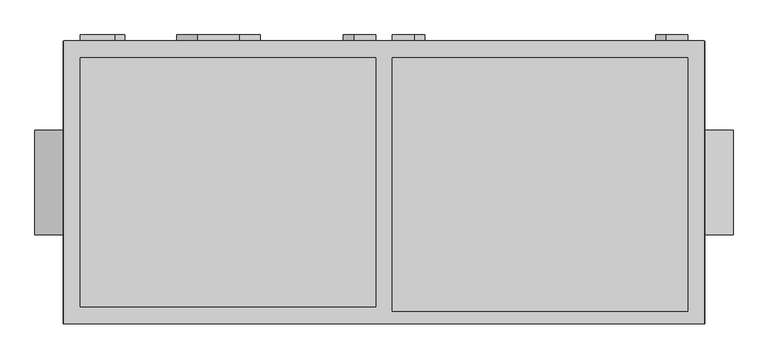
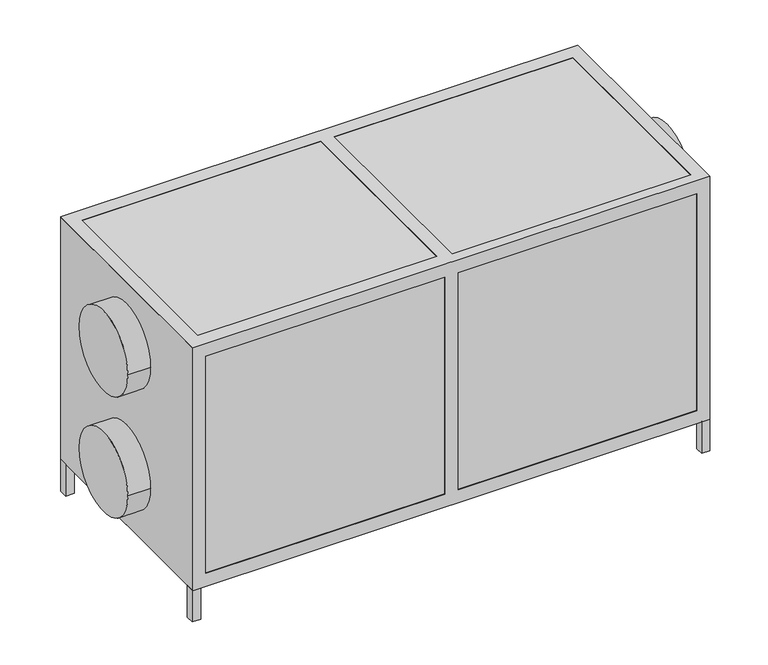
"""IFC4 building model written with IfcOpenShell, lengths in millimetres: proxy geometry, AVS 400...1600-S-RC(RG)-L : AVS 1100-S-RC-L."""

from ifc_helpers import new_model, si_unit, point, frame, frame_2d, origin, origin_with_axes, place, context, project, spatial, polyline, circle_curve, trimmed, segment, composite_curve, outline, extrude, faceted_brep, source, transform, mapped, element, save


def mechanical_equipment_3ae6ca7d(model_context):
    return source(origin(), model_context, "Body", "SolidModel", [
        extrude(outline(polyline([(743.0, 338.0), (768.0, 338.0), (768.0, 313.0), (743.0, 313.0), (743.0, 338.0)])), origin_with_axes(), (0.0, 0.0, 1.0), 100.0),
        extrude(outline(polyline([(743.0, -338.0), (743.0, -313.0), (768.0, -313.0), (768.0, -338.0), (743.0, -338.0)])), origin_with_axes(), (0.0, 0.0, 1.0), 100.0),
        extrude(outline(polyline([(-768.0, 313.0), (-768.0, 338.0), (-743.0, 338.0), (-743.0, 313.0), (-768.0, 313.0)])), origin_with_axes(), (0.0, 0.0, 1.0), 100.0),
        extrude(outline(polyline([(-768.0, -313.0), (-743.0, -313.0), (-743.0, -338.0), (-768.0, -338.0), (-768.0, -313.0)])), origin_with_axes(), (0.0, 0.0, 1.0), 100.0),
        faceted_brep([(767.0, 339.0, 861.0), (-767.0, 339.0, 861.0), (-767.0, -339.0, 861.0), (767.0, -339.0, 861.0), (-728.0, 298.0, 861.0), (-20.0, 298.0, 861.0), (-20.0, -298.0, 861.0), (-728.0, -298.0, 861.0), (728.0, 298.0, 861.0), (728.0, -309.0, 861.0), (20.0, -309.0, 861.0), (20.0, 298.0, 861.0), (767.0, 339.0, 99.0), (767.0, -339.0, 99.0), (-767.0, -339.0, 99.0), (-767.0, 339.0, 99.0), (-20.0, 298.0, 99.0), (-728.0, 298.0, 99.0), (-728.0, -298.0, 99.0), (-20.0, -298.0, 99.0), (728.0, -309.0, 99.0), (728.0, 298.0, 99.0), (20.0, 298.0, 99.0), (20.0, -309.0, 99.0), (-20.0, 339.0, 820.0), (-728.0, 339.0, 820.0), (-728.0, 339.0, 140.0), (-20.0, 339.0, 140.0), (728.0, 339.0, 140.0), (728.0, 339.0, 820.0), (20.0, 339.0, 820.0), (20.0, 339.0, 140.0), (-767.0, -298.0, 820.0), (-767.0, -298.0, 140.0), (-767.0, 298.0, 140.0), (-767.0, 298.0, 820.0), (-728.0, -339.0, 820.0), (-20.0, -339.0, 820.0), (-20.0, -339.0, 140.0), (-728.0, -339.0, 140.0), (728.0, -339.0, 820.0), (728.0, -339.0, 140.0), (20.0, -339.0, 140.0), (20.0, -339.0, 820.0), (767.0, -298.0, 140.0), (767.0, -298.0, 820.0), (767.0, 298.0, 820.0), (767.0, 298.0, 140.0), (-728.0, 298.0, 820.0), (-20.0, 298.0, 820.0), (-20.0, 298.0, 140.0), (-728.0, 298.0, 140.0), (-20.0, -298.0, 820.0), (-728.0, -298.0, 820.0), (-728.0, -298.0, 140.0), (-20.0, -298.0, 140.0), (728.0, 298.0, 820.0), (728.0, -298.0, 820.0), (728.0, -298.0, 140.0), (728.0, 298.0, 140.0), (728.0, -309.0, 140.0), (728.0, -309.0, 820.0), (20.0, 298.0, 820.0), (20.0, -298.0, 820.0), (20.0, -298.0, 140.0), (20.0, 298.0, 140.0), (20.0, -309.0, 820.0), (20.0, -309.0, 140.0)], [[[0, 1, 2, 3], [4, 5, 6, 7], [8, 9, 10, 11]], [[12, 13, 14, 15], [16, 17, 18, 19], [20, 21, 22, 23]], [[1, 0, 12, 15], [24, 25, 26, 27], [28, 29, 30, 31]], [[2, 1, 15, 14], [32, 33, 34, 35]], [[3, 2, 14, 13], [36, 37, 38, 39], [40, 41, 42, 43]], [[0, 3, 13, 12], [44, 45, 46, 47]], [[5, 4, 48, 49]], [[17, 16, 50, 51]], [[7, 6, 52, 53]], [[19, 18, 54, 55]], [[9, 8, 56, 57, 58, 59, 21, 20, 60, 41, 40, 61]], [[56, 29, 28, 59]], [[35, 48, 53, 32]], [[56, 46, 45, 57]], [[49, 62, 63, 52]], [[51, 34, 33, 54]], [[47, 59, 58, 44]], [[55, 64, 65, 50]], [[36, 53, 52, 37]], [[24, 49, 48, 25]], [[54, 39, 38, 55]], [[50, 27, 26, 51]], [[32, 53, 54, 33]], [[57, 45, 44, 58]], [[52, 63, 64, 55]], [[48, 35, 34, 51]], [[62, 49, 50, 65]], [[59, 47, 46, 56]], [[4, 7, 53, 48]], [[18, 17, 51, 54]], [[53, 36, 39, 54]], [[25, 48, 51, 26]], [[6, 5, 49, 52]], [[16, 19, 55, 50]], [[37, 52, 55, 38]], [[49, 24, 27, 50]], [[8, 11, 62, 56]], [[22, 21, 59, 65]], [[11, 10, 66, 43, 42, 67, 23, 22, 65, 64, 63, 62]], [[30, 62, 65, 31]], [[10, 9, 61, 66]], [[20, 23, 67, 60]], [[61, 40, 43, 66]], [[29, 56, 62, 30]], [[41, 60, 67, 42]], [[59, 28, 31, 65]]]),
        extrude(outline(polyline([(-768.0, 338.0), (768.0, 338.0), (768.0, -338.0), (-768.0, -338.0), (-768.0, 338.0)])), frame((0.0, 0.0, 100.0), z_axis=(0.0, 0.0, 1.0), x_axis=(1.0, 0.0, 0.0)), (0.0, 0.0, 1.0), 760.0),
        extrude(outline(composite_curve([segment(polyline([(695.0, -645.2895396), (695.0, -728.0), (645.0, -728.0), (645.0, -645.2895396)]), True, "CONTINUOUS"), segment(trimmed(circle_curve(frame_2d((670.0, -645.2895396)), 25.0), [point((645.0, -645.2895396))], [point((695.0, -645.2895396))], False, "CARTESIAN"), True, "CONTINUOUS")], self_intersect=False)), frame((0.0, 338.0, 0.0), z_axis=(0.0, 1.0, 0.0), x_axis=(0.0, 0.0, 1.0)), (0.0, 0.0, 1.0), 15.0),
        extrude(outline(composite_curve([segment(polyline([(315.0, -645.2895396), (315.0, -728.0), (265.0, -728.0), (265.0, -645.2895396)]), True, "CONTINUOUS"), segment(trimmed(circle_curve(frame_2d((290.0, -645.2895396)), 25.0), [point((265.0, -645.2895396))], [point((315.0, -645.2895396))], False, "CARTESIAN"), True, "CONTINUOUS")], self_intersect=False)), frame((0.0, 338.0, 0.0), z_axis=(0.0, 1.0, 0.0), x_axis=(0.0, 0.0, 1.0)), (0.0, 0.0, 1.0), 15.0),
        extrude(outline(composite_curve([segment(trimmed(circle_curve(frame_2d((583.0, -72.7104604)), 25.0), [point((608.0, -72.7104604))], [point((558.0, -72.7104604))], False, "CARTESIAN"), True, "CONTINUOUS"), segment(polyline([(558.0, -72.7104604), (558.0, -20.0), (608.0, -20.0), (608.0, -72.7104604)]), True, "CONTINUOUS")], self_intersect=False)), frame((0.0, 338.0, 0.0), z_axis=(0.0, 1.0, 0.0), x_axis=(0.0, 0.0, 1.0)), (0.0, 0.0, 1.0), 15.0),
        extrude(outline(composite_curve([segment(polyline([(335.0, -72.7104604), (335.0, -20.0), (385.0, -20.0), (385.0, -72.7104604)]), True, "CONTINUOUS"), segment(trimmed(circle_curve(frame_2d((360.0, -72.7104604)), 25.0), [point((385.0, -72.7104604))], [point((335.0, -72.7104604))], False, "CARTESIAN"), True, "CONTINUOUS")], self_intersect=False)), frame((0.0, 338.0, 0.0), z_axis=(0.0, 1.0, 0.0), x_axis=(0.0, 0.0, 1.0)), (0.0, 0.0, 1.0), 15.0),
        extrude(outline(composite_curve([segment(trimmed(circle_curve(frame_2d((778.0, 675.2895396)), 25.0), [point((803.0, 675.2895396))], [point((753.0, 675.2895396))], False, "CARTESIAN"), True, "CONTINUOUS"), segment(polyline([(753.0, 675.2895396), (753.0, 728.0), (803.0, 728.0), (803.0, 675.2895396)]), True, "CONTINUOUS")], self_intersect=False)), frame((0.0, 338.0, 0.0), z_axis=(0.0, 1.0, 0.0), x_axis=(0.0, 0.0, 1.0)), (0.0, 0.0, 1.0), 15.0),
        extrude(outline(composite_curve([segment(polyline([(157.0, 675.2895396), (157.0, 728.0), (207.0, 728.0), (207.0, 675.2895396)]), True, "CONTINUOUS"), segment(trimmed(circle_curve(frame_2d((182.0, 675.2895396)), 25.0), [point((207.0, 675.2895396))], [point((157.0, 675.2895396))], False, "CARTESIAN"), True, "CONTINUOUS")], self_intersect=False)), frame((0.0, 338.0, 0.0), z_axis=(0.0, 1.0, 0.0), x_axis=(0.0, 0.0, 1.0)), (0.0, 0.0, 1.0), 15.0),
        extrude(outline(composite_curve([segment(polyline([(745.0, 72.7104604), (745.0, 20.0), (695.0, 20.0), (695.0, 72.7104604)]), True, "CONTINUOUS"), segment(trimmed(circle_curve(frame_2d((720.0, 72.7104604)), 25.0), [point((695.0, 72.7104604))], [point((745.0, 72.7104604))], False, "CARTESIAN"), True, "CONTINUOUS")], self_intersect=False)), frame((0.0, 338.0, 0.0), z_axis=(0.0, 1.0, 0.0), x_axis=(0.0, 0.0, 1.0)), (0.0, 0.0, 1.0), 15.0),
        extrude(outline(composite_curve([segment(trimmed(circle_curve(frame_2d((240.0, 72.7104604)), 25.0), [point((215.0, 72.7104604))], [point((265.0, 72.7104604))], False, "CARTESIAN"), True, "CONTINUOUS"), segment(polyline([(265.0, 72.7104604), (265.0, 20.0), (215.0, 20.0), (215.0, 72.7104604)]), True, "CONTINUOUS")], self_intersect=False)), frame((0.0, 338.0, 0.0), z_axis=(0.0, 1.0, 0.0), x_axis=(0.0, 0.0, 1.0)), (0.0, 0.0, 1.0), 15.0),
        extrude(outline(composite_curve([segment(polyline([(793.9531077, -346.4249776), (793.9531077, -446.4249776)]), True, "CONTINUOUS"), segment(trimmed(circle_curve(frame_2d((743.9531077, -446.4249776)), 50.0), [point((793.9531077, -446.4249776))], [point((693.9531077, -446.4249776))], False, "CARTESIAN"), True, "CONTINUOUS"), segment(polyline([(693.9531077, -446.4249776), (693.9531077, -346.4249776)]), True, "CONTINUOUS"), segment(trimmed(circle_curve(frame_2d((743.9531077, -346.4249776)), 50.0), [point((693.9531077, -346.4249776))], [point((793.9531077, -346.4249776))], False, "CARTESIAN"), True, "CONTINUOUS")], self_intersect=False)), frame((0.0, 338.0, 0.0), z_axis=(0.0, 1.0, 0.0), x_axis=(0.0, 0.0, 1.0)), (0.0, 0.0, 1.0), 15.0),
        extrude(outline(composite_curve([segment(trimmed(circle_curve(frame_2d((0.0, 670.0)), 125.0), [point((-125.0, 670.0))], [point((125.0, 670.0))], False, "CARTESIAN"), True, "CONTINUOUS"), segment(trimmed(circle_curve(frame_2d((0.0, 670.0)), 125.0), [point((125.0, 670.0))], [point((-125.0, 670.0))], False, "CARTESIAN"), True, "CONTINUOUS")], self_intersect=False)), frame((-836.0, 0.0, 0.0), z_axis=(1.0, 0.0, 0.0), x_axis=(0.0, 1.0, 0.0)), (0.0, 0.0, 1.0), 68.0),
        extrude(outline(composite_curve([segment(trimmed(circle_curve(frame_2d((0.0, 290.0)), 125.0), [point((-125.0, 290.0))], [point((125.0, 290.0))], False, "CARTESIAN"), True, "CONTINUOUS"), segment(trimmed(circle_curve(frame_2d((0.0, 290.0)), 125.0), [point((125.0, 290.0))], [point((-125.0, 290.0))], False, "CARTESIAN"), True, "CONTINUOUS")], self_intersect=False)), frame((-836.0, 0.0, 0.0), z_axis=(1.0, 0.0, 0.0), x_axis=(0.0, 1.0, 0.0)), (0.0, 0.0, 1.0), 68.0),
        extrude(outline(composite_curve([segment(trimmed(circle_curve(frame_2d((0.0, 670.0)), 125.0), [point((-125.0, 670.0))], [point((125.0, 670.0))], False, "CARTESIAN"), True, "CONTINUOUS"), segment(trimmed(circle_curve(frame_2d((0.0, 670.0)), 125.0), [point((125.0, 670.0))], [point((-125.0, 670.0))], False, "CARTESIAN"), True, "CONTINUOUS")], self_intersect=False)), frame((768.0, 0.0, 0.0), z_axis=(1.0, 0.0, 0.0), x_axis=(0.0, 1.0, 0.0)), (0.0, 0.0, 1.0), 68.0),
        extrude(outline(composite_curve([segment(trimmed(circle_curve(frame_2d((0.0, 290.0)), 125.0), [point((-125.0, 290.0))], [point((125.0, 290.0))], False, "CARTESIAN"), True, "CONTINUOUS"), segment(trimmed(circle_curve(frame_2d((0.0, 290.0)), 125.0), [point((125.0, 290.0))], [point((-125.0, 290.0))], False, "CARTESIAN"), True, "CONTINUOUS")], self_intersect=False)), frame((768.0, 0.0, 0.0), z_axis=(1.0, 0.0, 0.0), x_axis=(0.0, 1.0, 0.0)), (0.0, 0.0, 1.0), 68.0),
    ])


if __name__ == "__main__":
    model = new_model("IFC4")
    model_context = context("Model", 3, world=origin())
    ifc_project = project(units=[si_unit("LENGTHUNIT", "METRE", prefix="MILLI")], contexts=[model_context])
    site = spatial("IfcSite", under=ifc_project)
    building = spatial("IfcBuilding", under=site)
    placement = place(None, origin())
    mechanical_equipment_shape = mechanical_equipment_3ae6ca7d(model_context)
    element("IfcBuildingElementProxy", 1, Name="AVS 400...1600-S-RC(RG)-L : AVS 1100-S-RC-L", ObjectType="AVS 400...1600-S-RC(RG)-L : AVS 1100-S-RC-L", at=placement, inside=building, context=model_context, shape_type="MappedRepresentation", body=[
        mapped(mechanical_equipment_shape, transform((0.0, 0.0, 0.0), x_axis=(1.0, 0.0, 0.0), y_axis=(0.0, 1.0, 0.0), z_axis=(0.0, 0.0, 1.0))),
    ])
    save(model, "model.ifc")
